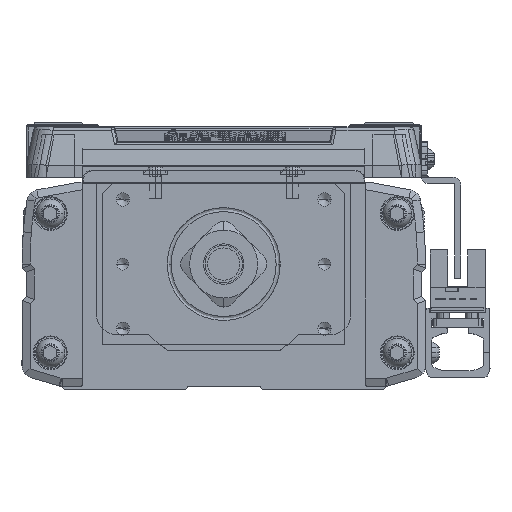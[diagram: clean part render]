
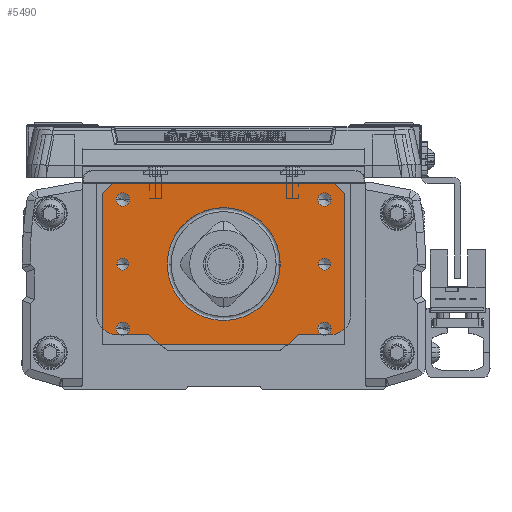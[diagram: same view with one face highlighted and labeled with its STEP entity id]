
A CAD part, left-side view. The second image highlights one B-rep face of the part: STEP entity #5490.
In plain terms, the highlighted planar face has unit normal (-1, 0, 0).
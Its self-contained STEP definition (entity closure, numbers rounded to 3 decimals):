
#5490=ADVANCED_FACE('',(#12296,#12297,#12298,#12299,#12300,#12301,#12302,#12303),#12304,.T.);
#12296=FACE_BOUND('',#21033,.T.);
#12297=FACE_BOUND('',#21034,.T.);
#12298=FACE_BOUND('',#21035,.T.);
#12299=FACE_BOUND('',#21036,.T.);
#12300=FACE_BOUND('',#21037,.T.);
#12301=FACE_BOUND('',#21038,.T.);
#12302=FACE_BOUND('',#21039,.T.);
#12303=FACE_OUTER_BOUND('',#21040,.T.);
#12304=PLANE('',#21041);
#21033=EDGE_LOOP('',(#36534,#36535));
#21034=EDGE_LOOP('',(#36536,#36537));
#21035=EDGE_LOOP('',(#36538,#36539));
#21036=EDGE_LOOP('',(#36540,#36541));
#21037=EDGE_LOOP('',(#36542,#36543));
#21038=EDGE_LOOP('',(#36544,#36545));
#21039=EDGE_LOOP('',(#36546,#36547,#36548));
#21040=EDGE_LOOP('',(#36549,#36550,#36551,#36552,#36553,#36554));
#21041=AXIS2_PLACEMENT_3D('',#36555,#36556,#36557);
#36534=ORIENTED_EDGE('',*,*,#51933,.T.);
#36535=ORIENTED_EDGE('',*,*,#55334,.T.);
#36536=ORIENTED_EDGE('',*,*,#55335,.T.);
#36537=ORIENTED_EDGE('',*,*,#53592,.T.);
#36538=ORIENTED_EDGE('',*,*,#52285,.T.);
#36539=ORIENTED_EDGE('',*,*,#52361,.T.);
#36540=ORIENTED_EDGE('',*,*,#55336,.T.);
#36541=ORIENTED_EDGE('',*,*,#53108,.T.);
#36542=ORIENTED_EDGE('',*,*,#55337,.T.);
#36543=ORIENTED_EDGE('',*,*,#55338,.T.);
#36544=ORIENTED_EDGE('',*,*,#50164,.T.);
#36545=ORIENTED_EDGE('',*,*,#55339,.T.);
#36546=ORIENTED_EDGE('',*,*,#55340,.T.);
#36547=ORIENTED_EDGE('',*,*,#55341,.T.);
#36548=ORIENTED_EDGE('',*,*,#55342,.T.);
#36549=ORIENTED_EDGE('',*,*,#55343,.F.);
#36550=ORIENTED_EDGE('',*,*,#55244,.F.);
#36551=ORIENTED_EDGE('',*,*,#55344,.T.);
#36552=ORIENTED_EDGE('',*,*,#55345,.T.);
#36553=ORIENTED_EDGE('',*,*,#55346,.F.);
#36554=ORIENTED_EDGE('',*,*,#49953,.T.);
#36555=CARTESIAN_POINT('',(-580.,0.,-20.));
#36556=DIRECTION('',(-1.0,0.,0.));
#36557=DIRECTION('',(0.,-1.0,0.));
#49953=EDGE_CURVE('',#59683,#59680,#59684,.T.);
#50164=EDGE_CURVE('',#60053,#60058,#60060,.T.);
#51933=EDGE_CURVE('',#63134,#63136,#63138,.T.);
#52285=EDGE_CURVE('',#63718,#63723,#63725,.T.);
#52361=EDGE_CURVE('',#63723,#63718,#63840,.T.);
#53108=EDGE_CURVE('',#65037,#65035,#65038,.T.);
#53592=EDGE_CURVE('',#65763,#65760,#65764,.T.);
#55244=EDGE_CURVE('',#68209,#68205,#68211,.T.);
#55334=EDGE_CURVE('',#63136,#63134,#68330,.T.);
#55335=EDGE_CURVE('',#65760,#65763,#68331,.T.);
#55336=EDGE_CURVE('',#65035,#65037,#68332,.T.);
#55337=EDGE_CURVE('',#68333,#68334,#68335,.T.);
#55338=EDGE_CURVE('',#68334,#68333,#68336,.T.);
#55339=EDGE_CURVE('',#60058,#60053,#68337,.T.);
#55340=EDGE_CURVE('',#68338,#68339,#68340,.T.);
#55341=EDGE_CURVE('',#68339,#68341,#68342,.T.);
#55342=EDGE_CURVE('',#68341,#68338,#68343,.T.);
#55343=EDGE_CURVE('',#68205,#59680,#68344,.T.);
#55344=EDGE_CURVE('',#68209,#68345,#68346,.T.);
#55345=EDGE_CURVE('',#68345,#68347,#68348,.T.);
#55346=EDGE_CURVE('',#59683,#68347,#68349,.T.);
#59680=VERTEX_POINT('',#73684);
#59683=VERTEX_POINT('',#73688);
#59684=LINE('',#73689,#73690);
#60053=VERTEX_POINT('',#74203);
#60058=VERTEX_POINT('',#74209);
#60060=CIRCLE('',#74212,1.65);
#63134=VERTEX_POINT('',#78566);
#63136=VERTEX_POINT('',#78569);
#63138=CIRCLE('',#78572,1.5);
#63718=VERTEX_POINT('',#79401);
#63723=VERTEX_POINT('',#79407);
#63725=CIRCLE('',#79410,1.65);
#63840=CIRCLE('',#79560,1.65);
#65035=VERTEX_POINT('',#81221);
#65037=VERTEX_POINT('',#81224);
#65038=CIRCLE('',#81225,1.65);
#65760=VERTEX_POINT('',#82224);
#65763=VERTEX_POINT('',#82228);
#65764=CIRCLE('',#82229,1.5);
#68205=VERTEX_POINT('',#85691);
#68209=VERTEX_POINT('',#85697);
#68211=LINE('',#85700,#85701);
#68330=CIRCLE('',#85862,1.5);
#68331=CIRCLE('',#85863,1.5);
#68332=CIRCLE('',#85864,1.65);
#68333=VERTEX_POINT('',#85865);
#68334=VERTEX_POINT('',#85866);
#68335=CIRCLE('',#85867,1.65);
#68336=CIRCLE('',#85868,1.65);
#68337=CIRCLE('',#85869,1.65);
#68338=VERTEX_POINT('',#85870);
#68339=VERTEX_POINT('',#85871);
#68340=CIRCLE('',#85872,14.0);
#68341=VERTEX_POINT('',#85873);
#68342=CIRCLE('',#85874,14.0);
#68343=CIRCLE('',#85875,14.0);
#68344=LINE('',#85876,#85877);
#68345=VERTEX_POINT('',#85878);
#68346=LINE('',#85879,#85880);
#68347=VERTEX_POINT('',#85881);
#68348=LINE('',#85882,#85883);
#68349=LINE('',#85884,#85885);
#73684=CARTESIAN_POINT('',(-580.,27.5,20.));
#73688=CARTESIAN_POINT('',(-580.,-27.5,20.));
#73689=CARTESIAN_POINT('',(-580.,30.,20.));
#73690=VECTOR('',#92585,10.0);
#74203=CARTESIAN_POINT('',(-580.,-26.65,16.));
#74209=CARTESIAN_POINT('',(-580.,-23.35,16.));
#74212=AXIS2_PLACEMENT_3D('',#92870,#92871,#92872);
#78566=CARTESIAN_POINT('',(-580.,-26.5,0.));
#78569=CARTESIAN_POINT('',(-580.,-23.5,0.));
#78572=AXIS2_PLACEMENT_3D('',#95318,#95319,#95320);
#79401=CARTESIAN_POINT('',(-580.,-26.65,-16.));
#79407=CARTESIAN_POINT('',(-580.,-23.35,-16.));
#79410=AXIS2_PLACEMENT_3D('',#95799,#95800,#95801);
#79560=AXIS2_PLACEMENT_3D('',#95900,#95901,#95902);
#81221=CARTESIAN_POINT('',(-580.,26.65,-16.));
#81224=CARTESIAN_POINT('',(-580.,23.35,-16.));
#81225=AXIS2_PLACEMENT_3D('',#96925,#96926,#96927);
#82224=CARTESIAN_POINT('',(-580.,26.5,0.));
#82228=CARTESIAN_POINT('',(-580.,23.5,0.));
#82229=AXIS2_PLACEMENT_3D('',#97530,#97531,#97532);
#85691=CARTESIAN_POINT('',(-580.,30.,17.5));
#85697=CARTESIAN_POINT('',(-580.,30.,-20.));
#85700=CARTESIAN_POINT('',(-580.,30.,-20.));
#85701=VECTOR('',#99730,10.0);
#85862=AXIS2_PLACEMENT_3D('',#99854,#99855,#99856);
#85863=AXIS2_PLACEMENT_3D('',#99857,#99858,#99859);
#85864=AXIS2_PLACEMENT_3D('',#99860,#99861,#99862);
#85865=CARTESIAN_POINT('',(-580.,26.65,16.));
#85866=CARTESIAN_POINT('',(-580.,23.35,16.));
#85867=AXIS2_PLACEMENT_3D('',#99863,#99864,#99865);
#85868=AXIS2_PLACEMENT_3D('',#99866,#99867,#99868);
#85869=AXIS2_PLACEMENT_3D('',#99869,#99870,#99871);
#85870=CARTESIAN_POINT('',(-580.,0.,-14.));
#85871=CARTESIAN_POINT('',(-580.,14.,0.));
#85872=AXIS2_PLACEMENT_3D('',#99872,#99873,#99874);
#85873=CARTESIAN_POINT('',(-580.,-14.,0.));
#85874=AXIS2_PLACEMENT_3D('',#99875,#99876,#99877);
#85875=AXIS2_PLACEMENT_3D('',#99878,#99879,#99880);
#85876=CARTESIAN_POINT('',(-580.,31.25,16.25));
#85877=VECTOR('',#99881,10.);
#85878=CARTESIAN_POINT('',(-580.,-30.,-20.));
#85879=CARTESIAN_POINT('',(-580.,30.,-20.));
#85880=VECTOR('',#99882,10.0);
#85881=CARTESIAN_POINT('',(-580.,-30.,17.5));
#85882=CARTESIAN_POINT('',(-580.,-30.,-20.));
#85883=VECTOR('',#99883,10.0);
#85884=CARTESIAN_POINT('',(-580.,-31.25,16.25));
#85885=VECTOR('',#99884,10.);
#92585=DIRECTION('',(0.,1.0,0.));
#92870=CARTESIAN_POINT('',(-580.,-25.,16.));
#92871=DIRECTION('',(1.0,0.,0.));
#92872=DIRECTION('',(0.,-1.0,0.));
#95318=CARTESIAN_POINT('',(-580.,-25.,0.));
#95319=DIRECTION('',(1.0,0.,0.));
#95320=DIRECTION('',(0.,-1.0,0.));
#95799=CARTESIAN_POINT('',(-580.,-25.,-16.));
#95800=DIRECTION('',(1.0,0.,0.));
#95801=DIRECTION('',(0.,-1.0,0.));
#95900=CARTESIAN_POINT('',(-580.,-25.,-16.));
#95901=DIRECTION('',(1.0,0.,0.));
#95902=DIRECTION('',(0.,-1.0,0.));
#96925=CARTESIAN_POINT('',(-580.,25.,-16.));
#96926=DIRECTION('',(1.0,0.,0.));
#96927=DIRECTION('',(0.,1.0,0.));
#97530=CARTESIAN_POINT('',(-580.,25.,0.));
#97531=DIRECTION('',(1.0,0.,0.));
#97532=DIRECTION('',(0.,1.0,0.));
#99730=DIRECTION('',(0.,0.,1.0));
#99854=CARTESIAN_POINT('',(-580.,-25.,0.));
#99855=DIRECTION('',(1.0,0.,0.));
#99856=DIRECTION('',(0.,-1.0,0.));
#99857=CARTESIAN_POINT('',(-580.,25.,0.));
#99858=DIRECTION('',(1.0,0.,0.));
#99859=DIRECTION('',(0.,1.0,0.));
#99860=CARTESIAN_POINT('',(-580.,25.,-16.));
#99861=DIRECTION('',(1.0,0.,0.));
#99862=DIRECTION('',(0.,1.0,0.));
#99863=CARTESIAN_POINT('',(-580.,25.,16.));
#99864=DIRECTION('',(1.0,0.,0.));
#99865=DIRECTION('',(0.,1.0,0.));
#99866=CARTESIAN_POINT('',(-580.,25.,16.));
#99867=DIRECTION('',(1.0,0.,0.));
#99868=DIRECTION('',(0.,1.0,0.));
#99869=CARTESIAN_POINT('',(-580.,-25.,16.));
#99870=DIRECTION('',(1.0,0.,0.));
#99871=DIRECTION('',(0.,-1.0,0.));
#99872=CARTESIAN_POINT('',(-580.,0.,0.));
#99873=DIRECTION('',(1.0,0.,0.));
#99874=DIRECTION('',(0.,0.,1.0));
#99875=CARTESIAN_POINT('',(-580.,0.,0.));
#99876=DIRECTION('',(1.0,0.,0.));
#99877=DIRECTION('',(0.,0.,1.0));
#99878=CARTESIAN_POINT('',(-580.,0.,0.));
#99879=DIRECTION('',(1.0,0.,0.));
#99880=DIRECTION('',(0.,0.,1.0));
#99881=DIRECTION('',(0.,-0.707,0.707));
#99882=DIRECTION('',(0.,-1.0,0.));
#99883=DIRECTION('',(0.,0.,1.0));
#99884=DIRECTION('',(0.0,-0.707,-0.707));
